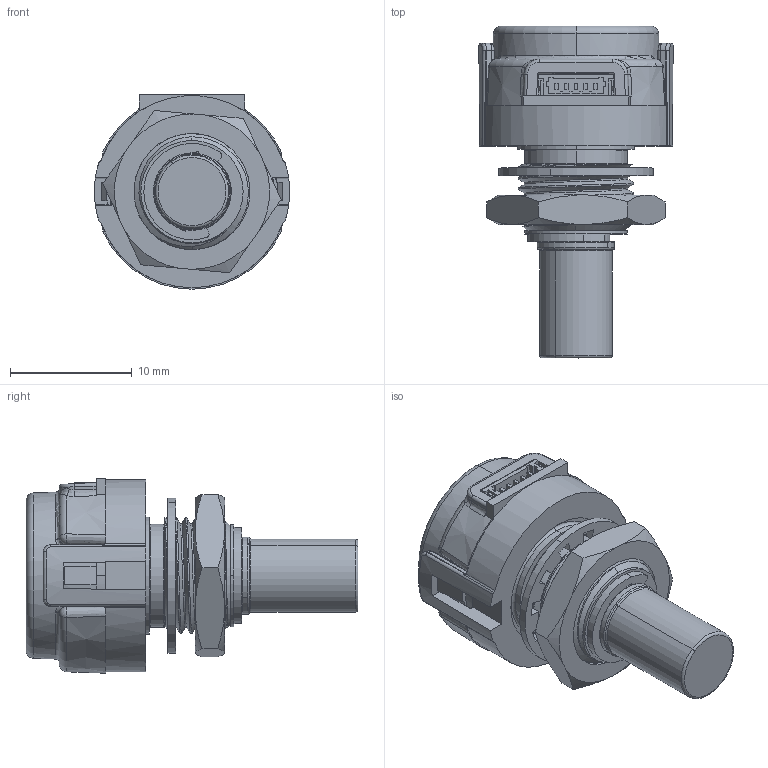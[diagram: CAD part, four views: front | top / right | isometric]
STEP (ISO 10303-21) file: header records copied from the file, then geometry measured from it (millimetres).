
FILE_DESCRIPTION(('FreeCAD Model'),'2;1');
FILE_NAME('Open CASCADE Shape Model','2023-09-07T11:10:12',(''),(''), 'Open CASCADE STEP processor 7.6','FreeCAD','Unknown');
FILE_SCHEMA(('AUTOMOTIVE_DESIGN { 1 0 10303 214 1 1 1 1 }'));
Products named in the file (1): Fusion013
Bounding box: 15.99 x 27.2 x 15.94 mm (x, y, z)
Volume: 2111.7 mm3; surface area: 3481.1 mm2
Topology: 3 solids, 3 shells, 2434 faces, 6306 edges, 4163 vertices
Faces by surface type: plane 1881, bspline 239, cylinder 206, torus 69, cone 35, sphere 4
Entity records: 106912 total; most frequent: CARTESIAN_POINT 31726, ORIENTED_EDGE 12600, DIRECTION 10656, EDGE_CURVE 6300, LINE 4924, VECTOR 4924, VERTEX_POINT 4163, AXIS2_PLACEMENT_3D 2866
